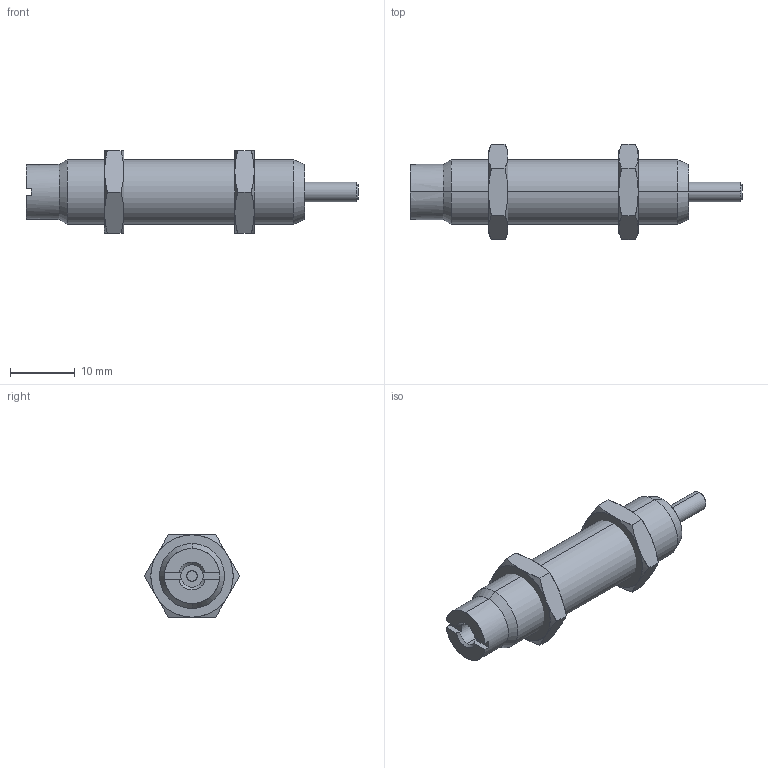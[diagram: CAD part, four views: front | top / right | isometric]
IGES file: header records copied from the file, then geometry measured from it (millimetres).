
Start section: SolidWorks IGES file using analytic representation for surfaces
Global section: file name: D:\IGS跡宒\AC1008-N.IGS,1; native system: 5HSolidWorks 2013; preprocessor: SolidWorks 2013; author: Administrator; date: 160406.151556; units: inch
Bounding box: 51.2 x 14.66 x 12.7 mm (x, y, z)
Surface area: 2309.7 mm2 (no closed solid volume)
Topology: 0 solids, 0 shells, 77 faces, 1133 edges, 1133 vertices
Faces by surface type: revolution 49, bspline 28
